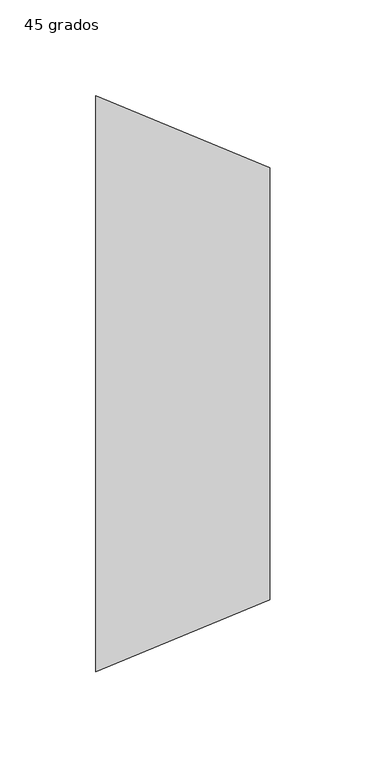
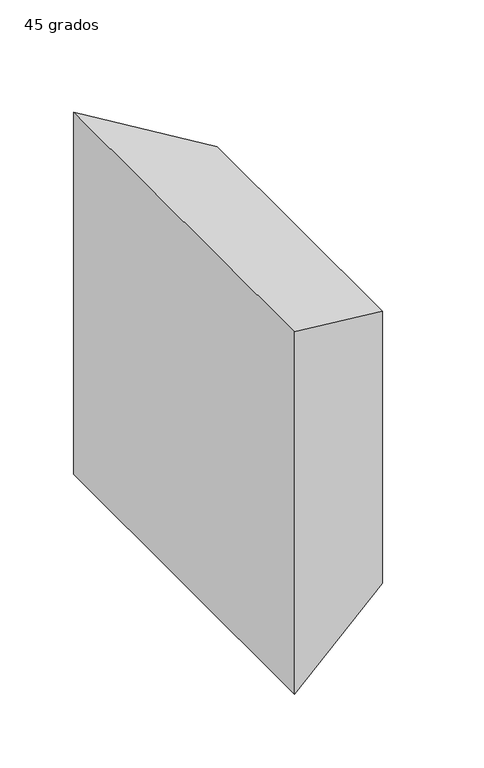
"""IFC4 building model written with IfcOpenShell, lengths in millimetres: duct fitting geometry, M_Transición rectangular - Ángulo : 45 grados."""

from ifc_helpers import new_model, si_unit, origin, place, context, project, spatial, faceted_brep, source, transform, mapped, element, save


def duct_fitting_45_grados_a4e4c17c(model_context):
    return source(origin(), model_context, "Body", "Brep", [
        faceted_brep([(90.5330086, -112.5, 112.5), (90.5330086, -112.5, -112.5), (90.5330086, 112.5, -112.5), (90.5330086, 112.5, 112.5), (0.0, -150.0, 150.0), (0.0, 150.0, 150.0), (0.0, 150.0, -150.0), (0.0, -150.0, -150.0)], [[[0, 1, 2, 3]], [[4, 5, 6, 7]], [[4, 7, 1, 0]], [[7, 6, 2, 1]], [[6, 5, 3, 2]], [[5, 4, 0, 3]]]),
    ])


if __name__ == "__main__":
    model = new_model("IFC4")
    model_context = context("Model", 3, world=origin())
    ifc_project = project(units=[si_unit("LENGTHUNIT", "METRE", prefix="MILLI")], contexts=[model_context])
    site = spatial("IfcSite", under=ifc_project)
    building = spatial("IfcBuilding", under=site)
    placement = place(None, origin())
    duct_fitting_45_grados_shape = duct_fitting_45_grados_a4e4c17c(model_context)
    element("IfcDuctFitting", 1, ObjectType="M_Transición rectangular - Ángulo : 45 grados", at=placement, inside=building, context=model_context, shape_type="MappedRepresentation", body=[
        mapped(duct_fitting_45_grados_shape, transform((0.0, 0.0, 0.0), x_axis=(1.0, 0.0, 0.0), y_axis=(0.0, 1.0, 0.0), z_axis=(0.0, 0.0, 1.0))),
    ])
    save(model, "model.ifc")
